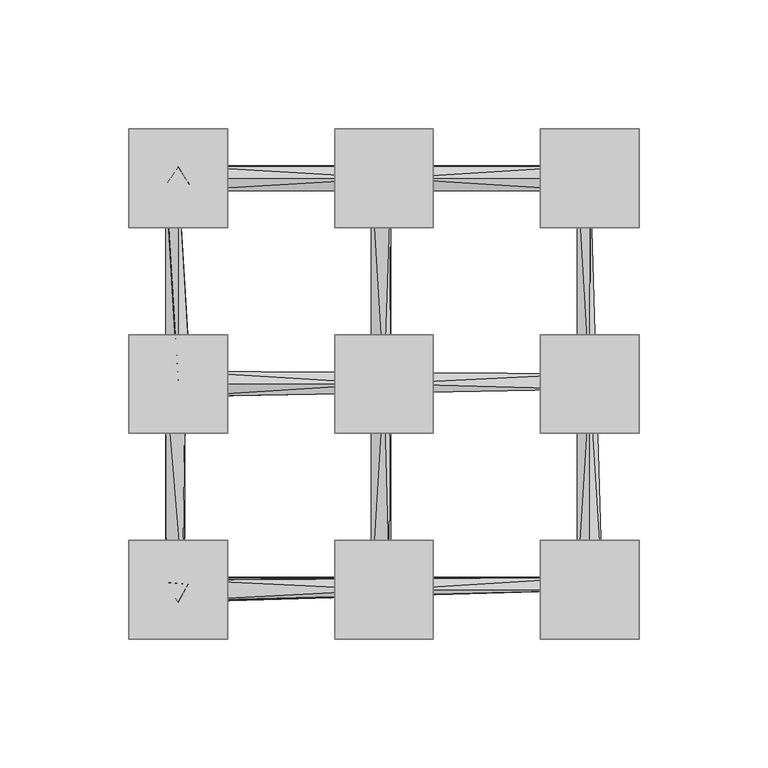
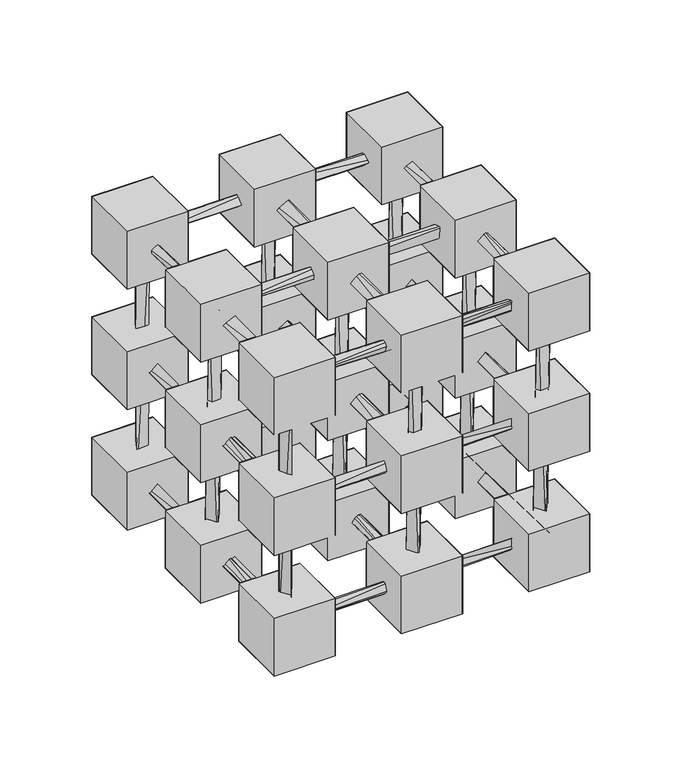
"""IFC4 building model written with IfcOpenShell, lengths in millimetres: geographic element geometry, Enscape AssetDefinition - Decorative Goods 034 Molecular Model : Enscape AssetDefinition - Decorative Goods 034 Molecular Model."""

from ifc_helpers import new_model, si_unit, origin, place, context, project, spatial, triangles, source, transform, mapped, element, save


def geographic_element_730c862c(model_context):
    return source(origin(), model_context, "Body", "Tessellation", [
        triangles([(-99.2090062, -60.7910023, 38.289001), (-99.2090062, -99.2090062, -0.129), (-99.2090062, -99.2090062, 38.289001), (-60.7910023, -99.2090062, -0.129), (-99.2090062, -60.7910023, -0.129), (-60.7910023, -60.7910023, -0.129), (-60.7910023, -99.2090062, 38.289001), (-60.7910023, -60.7910023, 38.289001), (-99.2090062, 60.7910023, 159.8710011), (-60.7910023, 60.7910023, 159.8710011), (-99.2090062, 60.7910023, 198.2890049), (-60.7910023, 60.7910023, 198.2890049), (-99.2090062, 99.2090062, 159.8710011), (-99.2090062, 99.2090062, 198.2890049), (-60.7910023, 99.2090062, 159.8710011), (-60.7910023, 99.2090062, 198.2890049), (-19.2089997, 99.2090062, 198.2890049), (19.2089997, 60.7910023, 159.8710011), (-19.2089997, 60.7910023, 159.8710011), (19.2089997, 60.7910023, 198.2890049), (-19.2089997, 60.7910023, 198.2890049), (-19.2089997, 99.2090062, 159.8710011), (19.2089997, 99.2090062, 198.2890049), (19.2089997, 99.2090062, 159.8710011), (60.7910023, 60.7910023, 198.2890049), (60.7910023, 99.2090062, 198.2890049), (60.7910023, 99.2090062, 159.8710011), (99.2090062, 60.7910023, 159.8710011), (60.7910023, 60.7910023, 159.8710011), (99.2090062, 99.2090062, 198.2890049), (99.2090062, 60.7910023, 198.2890049), (99.2090062, 99.2090062, 159.8710011), (-99.2090062, -19.2089997, 198.2890049), (-99.2090062, 19.2089997, 198.2890049), (-99.2090062, 19.2089997, 159.8710011), (-99.2090062, -19.2089997, 159.8710011), (-60.7910023, -19.2089997, 159.8710011), (-60.7910023, -19.2089997, 198.2890049), (-60.7910023, 19.2089997, 159.8710011), (-60.7910023, 19.2089997, 198.2890049), (19.2089997, -19.2089997, 159.8710011), (-19.2089997, -19.2089997, 159.8710011), (-19.2089997, -19.2089997, 198.2890049), (-19.2089997, 19.2089997, 198.2890049), (-19.2089997, 19.2089997, 159.8710011), (19.2089997, 19.2089997, 198.2890049), (19.2089997, -19.2089997, 198.2890049), (19.2089997, 19.2089997, 159.8710011), (60.7910023, -19.2089997, 159.8710011), (60.7910023, -19.2089997, 198.2890049), (99.2090062, -19.2089997, 159.8710011), (60.7910023, 19.2089997, 198.2890049), (99.2090062, 19.2089997, 198.2890049), (60.7910023, 19.2089997, 159.8710011), (99.2090062, 19.2089997, 159.8710011), (99.2090062, -19.2089997, 198.2890049), (-99.2090062, -99.2090062, 159.8710011), (-99.2090062, -99.2090062, 198.2890049), (-99.2090062, -60.7910023, 198.2890049), (-99.2090062, -60.7910023, 159.8710011), (-60.7910023, -60.7910023, 198.2890049), (-60.7910023, -60.7910023, 159.8710011), (-60.7910023, -99.2090062, 159.8710011), (-60.7910023, -99.2090062, 198.2890049), (-19.2089997, -99.2090062, 198.2890049), (-19.2089997, -60.7910023, 198.2890049), (-19.2089997, -99.2090062, 159.8710011), (19.2089997, -99.2090062, 159.8710011), (19.2089997, -99.2090062, 198.2890049), (-19.2089997, -60.7910023, 159.8710011), (19.2089997, -60.7910023, 198.2890049), (19.2089997, -60.7910023, 159.8710011), (60.7910023, -99.2090062, 159.8710011), (99.2090062, -99.2090062, 198.2890049), (60.7910023, -60.7910023, 198.2890049), (99.2090062, -60.7910023, 198.2890049), (60.7910023, -99.2090062, 198.2890049), (60.7910023, -60.7910023, 159.8710011), (99.2090062, -60.7910023, 159.8710011), (99.2090062, -99.2090062, 159.8710011), (-99.2090062, 60.7910023, 79.8709969), (-99.2090062, 99.2090062, 118.2890007), (-99.2090062, 60.7910023, 118.2890007), (-60.7910023, 99.2090062, 118.2890007), (-99.2090062, 99.2090062, 79.8709969), (-60.7910023, 60.7910023, 79.8709969), (-60.7910023, 99.2090062, 79.8709969), (-60.7910023, 60.7910023, 118.2890007), (-19.2089997, 60.7910023, 118.2890007), (-19.2089997, 60.7910023, 79.8709969), (19.2089997, 60.7910023, 118.2890007), (-19.2089997, 99.2090062, 118.2890007), (19.2089997, 99.2090062, 118.2890007), (-19.2089997, 99.2090062, 79.8709969), (19.2089997, 99.2090062, 79.8709969), (19.2089997, 60.7910023, 79.8709969), (60.7910023, 99.2090062, 118.2890007), (60.7910023, 99.2090062, 79.8709969), (60.7910023, 60.7910023, 79.8709969), (99.2090062, 60.7910023, 79.8709969), (99.2090062, 60.7910023, 118.2890007), (60.7910023, 60.7910023, 118.2890007), (99.2090062, 99.2090062, 79.8709969), (99.2090062, 99.2090062, 118.2890007), (-99.2090062, 19.2089997, 79.8709969), (-60.7910023, -19.2089997, 79.8709969), (-99.2090062, -19.2089997, 118.2890007), (-99.2090062, -19.2089997, 79.8709969), (-60.7910023, 19.2089997, 118.2890007), (-99.2090062, 19.2089997, 118.2890007), (-60.7910023, -19.2089997, 118.2890007), (-60.7910023, 19.2089997, 79.8709969), (-19.2089997, 19.2089997, 118.2890007), (-19.2089997, 19.2089997, 79.8709969), (19.2089997, -19.2089997, 79.8709969), (-19.2089997, -19.2089997, 79.8709969), (19.2089997, -19.2089997, 118.2890007), (19.2089997, 19.2089997, 118.2890007), (-19.2089997, -19.2089997, 118.2890007), (19.2089997, 19.2089997, 79.8709969), (60.7910023, 19.2089997, 79.8709969), (60.7910023, -19.2089997, 79.8709969), (99.2090062, -19.2089997, 79.8709969), (99.2090062, -19.2089997, 118.2890007), (60.7910023, -19.2089997, 118.2890007), (60.7910023, 19.2089997, 118.2890007), (99.2090062, 19.2089997, 118.2890007), (99.2090062, 19.2089997, 79.8709969), (-99.2090062, -99.2090062, 79.8709969), (-60.7910023, -99.2090062, 79.8709969), (-99.2090062, -99.2090062, 118.2890007), (-60.7910023, -99.2090062, 118.2890007), (-99.2090062, -60.7910023, 79.8709969), (-99.2090062, -60.7910023, 118.2890007), (-60.7910023, -60.7910023, 79.8709969), (-60.7910023, -60.7910023, 118.2890007), (-19.2089997, -99.2090062, 79.8709969), (-19.2089997, -60.7910023, 118.2890007), (-19.2089997, -60.7910023, 79.8709969), (-19.2089997, -99.2090062, 118.2890007), (19.2089997, -60.7910023, 79.8709969), (19.2089997, -99.2090062, 79.8709969), (19.2089997, -60.7910023, 118.2890007), (19.2089997, -99.2090062, 118.2890007), (60.7910023, -99.2090062, 79.8709969), (99.2090062, -99.2090062, 79.8709969), (60.7910023, -99.2090062, 118.2890007), (60.7910023, -60.7910023, 118.2890007), (99.2090062, -60.7910023, 118.2890007), (60.7910023, -60.7910023, 79.8709969), (99.2090062, -60.7910023, 79.8709969), (99.2090062, -99.2090062, 118.2890007), (-99.2090062, 60.7910023, -0.129), (-99.2090062, 99.2090062, 38.289001), (-60.7910023, 60.7910023, -0.129), (-99.2090062, 60.7910023, 38.289001), (-99.2090062, 99.2090062, -0.129), (-60.7910023, 99.2090062, -0.129), (-60.7910023, 99.2090062, 38.289001), (-60.7910023, 60.7910023, 38.289001), (-19.2089997, 60.7910023, 38.289001), (-19.2089997, 60.7910023, -0.129), (-19.2089997, 99.2090062, 38.289001), (-19.2089997, 99.2090062, -0.129), (19.2089997, 99.2090062, -0.129), (19.2089997, 99.2090062, 38.289001), (19.2089997, 60.7910023, -0.129), (19.2089997, 60.7910023, 38.289001), (60.7910023, 60.7910023, -0.129), (60.7910023, 99.2090062, 38.289001), (99.2090062, 60.7910023, -0.129), (60.7910023, 60.7910023, 38.289001), (60.7910023, 99.2090062, -0.129), (99.2090062, 99.2090062, 38.289001), (99.2090062, 99.2090062, -0.129), (99.2090062, 60.7910023, 38.289001), (-99.2090062, -19.2089997, -0.129), (-99.2090062, 19.2089997, 38.289001), (-99.2090062, 19.2089997, -0.129), (-60.7910023, -19.2089997, -0.129), (-99.2090062, -19.2089997, 38.289001), (-60.7910023, 19.2089997, 38.289001), (-60.7910023, 19.2089997, -0.129), (-60.7910023, -19.2089997, 38.289001), (-19.2089997, -19.2089997, -0.129), (-19.2089997, -19.2089997, 38.289001), (-19.2089997, 19.2089997, 38.289001), (19.2089997, -19.2089997, -0.129), (-19.2089997, 19.2089997, -0.129), (19.2089997, 19.2089997, 38.289001), (19.2089997, 19.2089997, -0.129), (19.2089997, -19.2089997, 38.289001), (60.7910023, 19.2089997, -0.129), (60.7910023, -19.2089997, -0.129), (99.2090062, -19.2089997, 38.289001), (60.7910023, 19.2089997, 38.289001), (60.7910023, -19.2089997, 38.289001), (99.2090062, 19.2089997, 38.289001), (99.2090062, -19.2089997, -0.129), (99.2090062, 19.2089997, -0.129), (-19.2089997, -99.2090062, -0.129), (19.2089997, -99.2090062, -0.129), (-19.2089997, -99.2090062, 38.289001), (-19.2089997, -60.7910023, -0.129), (-19.2089997, -60.7910023, 38.289001), (19.2089997, -60.7910023, -0.129), (19.2089997, -60.7910023, 38.289001), (19.2089997, -99.2090062, 38.289001), (60.7910023, -99.2090062, -0.129), (60.7910023, -60.7910023, 38.289001), (99.2090062, -99.2090062, -0.129), (60.7910023, -99.2090062, 38.289001), (99.2090062, -99.2090062, 38.289001), (60.7910023, -60.7910023, -0.129), (99.2090062, -60.7910023, -0.129), (99.2090062, -60.7910023, 38.289001), (84.3950031, -78.2280012, 18.9999996), (80.0999981, -75.5459974, 179.0000115), (84.3950031, -81.7719982, 179.0000115), (80.0999981, -84.454002, 18.9999996), (75.8809969, -82.436002, 179.0000115), (75.8809969, -77.5639974, 18.9999996), (79.9989959, 3.8970002, 96.8500023), (-79.9999952, 3.8970002, 101.3500001), (-79.9999952, -0.866, 94.6000033), (79.9999952, -2.051, 94.8369983), (0.0, 0.0, 94.6000033), (-4.872, 79.9989959, 99.1000012), (-4.872, -79.9999952, 99.1000012), (79.9999952, -79.9999952, 103.599999), (79.9999952, -80.0950021, 96.8500023), (-79.9999952, -79.9999952, 103.599999), (2.6879999, -79.9999952, 103.289998), (2.051, 79.9999952, 103.3630041), (84.8719997, -79.9999952, 99.1000012), (75.1279951, -79.9999952, 99.1000012), (75.1279951, 79.9989959, 99.1000012), (80.0950021, 79.9999952, 96.8500023), (79.9999952, -0.866, 103.599999), (79.9999952, 79.9999952, 103.599999), (79.9989959, 84.8719997, 99.1000012), (-79.9999952, 75.1279951, 99.1000012), (2.6879999, 79.9999952, 94.9100044), (79.9999952, 75.1279951, 99.1000012), (-79.9050064, 79.9999952, 96.8500023), (-79.9999952, 84.8719997, 99.1000012), (-79.9999952, -2.051, 103.3630041), (-79.9999952, 79.9999952, 103.599999), (-84.8719997, 79.9989959, 99.1000012), (-84.8719997, -80.0009944, 99.1000012), (-79.9050064, -79.9999952, 96.8500023), (0.0, 0.0, 103.599999), (-79.9999952, -84.8719997, 99.1000012), (-80.0009944, -75.1279951, 99.1000012), (79.9989959, -75.1279951, 99.1000012), (2.051, -79.9999952, 94.8369983), (-3.898, 79.9999952, 16.8500003), (0.0, 0.0, 14.6000002), (-3.898, -79.9999952, 21.3500004), (-79.9999952, -0.866, 14.6000002), (2.051, 79.9999952, 14.8369998), (79.9999952, -0.866, 23.6000016), (79.9989959, 3.8970002, 16.8500003), (-79.9999952, 3.8970002, 21.3500004), (0.0, 0.0, 23.6000016), (-79.9050064, 79.9999952, 16.8500003), (-84.8719997, 79.9989959, 19.0999992), (-84.8719997, -80.0009944, 19.0999992), (-79.9999952, -2.051, 23.3629998), (-79.9999952, 84.8719997, 19.0999992), (-79.9999952, 79.9999952, 23.6000016), (-79.9999952, 75.1279951, 19.0999992), (0.866, 79.9999952, 23.6000016), (79.9999952, 75.1279951, 19.0999992), (79.9989959, 84.8719997, 19.0999992), (79.9999952, -2.051, 14.8369998), (80.0950021, 79.9999952, 21.3500004), (84.8719997, -79.9999952, 19.0999992), (75.1279951, 79.9989959, 19.0999992), (79.9999952, 79.9999952, 14.6000002), (75.1279951, -80.0009944, 19.0999992), (79.9999952, -80.0950021, 16.8500003), (0.866, -79.9999952, 14.6000002), (79.9999952, -79.9999952, 23.6000016), (79.9989959, -75.1279951, 19.0999992), (-79.9999952, -84.8719997, 19.0999992), (-80.0009944, -75.1279951, 19.0999992), (2.051, -79.9999952, 23.3629998), (-79.9999952, -79.9999952, 14.6000002), (-79.9050064, -79.9999952, 21.3500004), (-79.9999952, 75.1279951, 179.1000054), (79.9999952, 75.1279951, 179.1000054), (79.9999952, 79.9999952, 174.6000076), (2.6879999, 79.9999952, 183.2900113), (80.0950021, 79.9999952, 181.3499953), (2.051, 79.9999952, 174.8369844), (75.1279951, 79.9989959, 179.1000054), (75.1279951, -79.9999952, 179.1000054), (79.9999952, -79.9999952, 174.6000076), (79.9999952, -0.866, 174.6000076), (84.8719997, -79.9999952, 179.1000054), (79.9999952, -2.051, 183.3630083), (79.9989959, -75.1279951, 179.1000054), (-79.9999952, -84.3299998, 180.6000047), (79.9999952, -80.0950021, 181.3499953), (-79.9999952, -76.1030037, 181.3499953), (2.051, -79.9999952, 183.3630083), (-79.9999952, -77.7729963, 175.2430098), (2.6879999, -79.9999952, 174.9099996), (-79.9210029, 79.9999952, 182.3080037), (0.0, 0.0, 183.5999851), (-79.9999952, 84.8719997, 179.1000054), (79.9989959, 84.8719997, 179.1000054), (-4.872, 79.9989959, 179.1000054), (-4.872, -80.0009944, 179.1000054), (0.0, 0.0, 174.6000076), (-84.8719997, 79.9989959, 179.1000054), (-75.1279951, 0.0, 179.1000054), (-80.0789965, 0.0, 175.891989), (-79.9999952, 79.9999952, 174.6000076), (-79.9999952, 0.0, 183.5999851), (-80.0009944, 4.872, 179.1000054), (79.9989959, 3.8970002, 181.3499953), (-79.9999952, -4.872, 179.1000054), (0.1, 75.5459974, 18.9999996), (-4.1189999, 77.5639974, 179.0000115), (-4.1189999, 82.436002, 18.9999996), (0.1, 84.454002, 179.0000115), (4.3950002, 81.7719982, 18.9999996), (4.3950002, 78.2280012, 179.0000115), (-84.8719997, -0.001, 99.1000012), (-78.2280012, -79.9999952, 94.8050054), (-84.454002, -79.9999952, 99.1000012), (-77.5639974, -79.9999952, 103.3189933), (-77.1660021, 0.0, 95.4179948), (-77.7729963, 0.0, 102.957006), (-77.5639974, -79.9999952, 23.3190004), (-84.454002, -80.0009944, 19.0999992), (-77.1660021, 0.0, 15.4179997), (-77.7729963, 0.0, 22.9570017), (-78.2280012, -79.9999952, 14.805), (-84.8719997, -0.001, 19.0999992), (4.3950002, -78.2280012, 18.9999996), (0.1, -75.5459974, 179.0000115), (0.1, -84.454002, 18.9999996), (4.3950002, -81.7719982, 179.0000115), (-4.1189999, -77.5639974, 18.9999996), (-4.1189999, -82.436002, 179.0000115), (4.3950002, 1.7720001, 18.9999996), (0.1, 4.454, 179.0000115), (4.3950002, -1.7720001, 179.0000115), (0.1, -4.454, 18.9999996), (-4.1189999, -2.436, 179.0000115), (-4.1189999, 2.436, 18.9999996), (-84.1190025, 2.436, 18.9999996), (-79.8999922, 4.454, 179.0000115), (-84.1190025, -2.436, 179.0000115), (-75.6049963, 1.7720001, 18.9999996), (-79.8999922, -4.454, 18.9999996), (-75.6049963, -1.7720001, 179.0000115), (80.0999981, 4.454, 179.0000115), (75.8040031, 1.7720001, 18.9999996), (84.3180001, 2.436, 18.9999996), (84.3950031, -1.7720001, 179.0000115), (80.0999981, -4.454, 18.9999996), (75.8809969, -2.436, 179.0000115), (-77.5639974, -79.9999952, 174.8810042), (-77.7729963, 0.0, 175.2430098), (-84.8719997, -0.001, 179.1000054), (-78.2280012, -79.9999952, 183.3950013), (-77.1660021, 0.0, 182.7819936), (-84.454002, -79.9999952, 179.1000054), (-76.043001, 77.7729963, 18.9999996), (-84.1960054, 78.2290004, 179.0000115), (-83.5819985, 77.1660021, 18.9999996), (-79.8999922, 84.8719997, 18.9999996), (-75.6819993, 77.5639974, 179.0000115), (-79.8999922, 84.454002, 179.0000115), (-84.1960054, -78.2290004, 18.9999996), (-79.8999922, -84.454002, 18.9999996), (-75.6819993, -77.5639974, 18.9999996), (-83.5819985, -77.1660021, 179.0000115), (-76.043001, -77.7729963, 179.0000115), (-79.8999922, -84.8719997, 178.9990123), (75.8809969, 77.5639974, 179.0000115), (75.8809969, 82.436002, 18.9999996), (84.3950031, 81.7719982, 18.9999996), (80.0999981, 84.454002, 179.0000115), (84.3950031, 78.2280012, 179.0000115), (80.0999981, 75.5459974, 18.9999996)], [[390, 389, 385], [387, 389, 390], [387, 388, 389], [386, 390, 385], [385, 388, 386], [386, 388, 387], [382, 383, 381], [382, 381, 379], [381, 383, 384], [384, 382, 379], [381, 384, 380], [384, 379, 380], [377, 374, 375], [377, 375, 373], [374, 378, 376], [376, 378, 377], [374, 376, 375], [376, 377, 373], [370, 369, 372], [370, 371, 369], [367, 372, 369], [367, 368, 371], [367, 369, 368], [367, 371, 370], [366, 362, 365], [365, 364, 366], [363, 364, 365], [363, 361, 364], [362, 366, 361], [361, 363, 362], [359, 360, 357], [358, 360, 359], [358, 356, 360], [355, 359, 357], [357, 356, 355], [355, 356, 358], [353, 350, 354], [353, 354, 352], [352, 351, 353], [349, 350, 351], [350, 349, 354], [349, 351, 352], [347, 348, 344], [348, 347, 345], [345, 346, 348], [343, 344, 346], [347, 344, 343], [343, 346, 345], [341, 338, 342], [341, 342, 339], [337, 341, 339], [337, 340, 342], [337, 339, 340], [337, 342, 338], [334, 335, 336], [334, 336, 331], [334, 331, 333], [334, 332, 335], [332, 333, 331], [332, 331, 335], [329, 330, 325], [329, 328, 330], [327, 328, 329], [325, 330, 326], [327, 326, 328], [326, 327, 325], [311, 302, 323], [324, 302, 311], [324, 300, 302], [323, 322, 311], [323, 300, 322], [321, 310, 317], [322, 321, 311], [311, 321, 324], [318, 310, 321], [318, 320, 310], [318, 319, 320], [321, 317, 319], [319, 317, 320], [300, 324, 316], [322, 300, 316], [324, 319, 316], [316, 319, 322], [314, 315, 311], [315, 314, 316], [314, 296, 316], [312, 313, 296], [296, 320, 312], [313, 312, 294], [311, 294, 314], [312, 310, 294], [309, 296, 294], [296, 309, 316], [316, 309, 315], [304, 308, 309], [315, 307, 311], [307, 294, 311], [306, 304, 307], [309, 294, 307], [308, 303, 309], [303, 308, 306], [303, 306, 307], [304, 305, 307], [305, 303, 307], [305, 304, 309], [305, 301, 302], [299, 300, 301], [303, 299, 309], [309, 299, 305], [298, 305, 302], [299, 298, 300], [297, 298, 302], [298, 297, 300], [313, 293, 296], [297, 293, 300], [300, 293, 295], [301, 295, 302], [294, 295, 313], [302, 295, 297], [301, 300, 295], [293, 292, 296], [292, 295, 294], [291, 292, 294], [294, 310, 291], [292, 291, 296], [291, 320, 296], [267, 266, 260], [268, 267, 260], [260, 289, 268], [289, 260, 290], [290, 260, 266], [290, 288, 287], [288, 290, 286], [283, 289, 287], [286, 289, 283], [287, 285, 283], [287, 288, 285], [288, 284, 285], [282, 286, 283], [282, 284, 288], [286, 282, 288], [285, 282, 283], [282, 281, 276], [278, 282, 276], [281, 284, 262], [262, 284, 278], [262, 260, 276], [281, 279, 276], [279, 281, 262], [279, 280, 276], [278, 277, 262], [277, 278, 276], [276, 280, 277], [262, 277, 279], [273, 277, 275], [283, 273, 288], [274, 277, 273], [272, 274, 273], [274, 272, 261], [280, 274, 261], [275, 280, 261], [283, 261, 273], [272, 266, 261], [275, 270, 273], [270, 275, 261], [261, 266, 270], [271, 272, 273], [270, 271, 273], [262, 269, 260], [267, 268, 269], [269, 271, 267], [290, 266, 269], [268, 290, 269], [266, 271, 269], [288, 273, 265], [259, 288, 265], [273, 259, 265], [269, 262, 265], [264, 269, 265], [262, 264, 265], [263, 260, 264], [263, 264, 262], [261, 283, 258], [260, 263, 258], [260, 258, 276], [263, 276, 258], [259, 273, 257], [283, 257, 258], [259, 257, 283], [257, 261, 258], [231, 256, 255], [255, 256, 254], [231, 253, 256], [256, 251, 254], [253, 251, 256], [239, 247, 225], [232, 251, 247], [247, 239, 252], [251, 250, 225], [250, 232, 247], [249, 250, 247], [250, 249, 225], [245, 251, 225], [251, 245, 247], [249, 245, 225], [247, 248, 249], [245, 248, 247], [246, 248, 234], [234, 248, 242], [242, 244, 234], [245, 246, 243], [244, 242, 243], [242, 245, 243], [246, 241, 243], [241, 246, 234], [234, 240, 241], [244, 240, 234], [238, 244, 243], [241, 238, 243], [238, 240, 239], [235, 238, 239], [238, 235, 226], [239, 225, 226], [235, 231, 226], [237, 238, 226], [239, 240, 237], [236, 237, 226], [226, 231, 236], [237, 236, 239], [239, 230, 235], [236, 230, 239], [243, 234, 233], [233, 234, 252], [233, 230, 255], [232, 233, 254], [253, 231, 233], [233, 232, 253], [243, 233, 256], [254, 233, 255], [231, 230, 233], [229, 233, 252], [228, 229, 252], [252, 234, 228], [226, 225, 227], [243, 256, 227], [229, 228, 227], [227, 256, 229], [228, 243, 227], [223, 226, 227], [225, 223, 227], [223, 225, 224], [239, 224, 252], [223, 224, 239], [224, 247, 252], [221, 218, 222], [222, 220, 221], [220, 219, 221], [217, 218, 219], [222, 218, 217], [217, 219, 220], [215, 216, 213], [215, 213, 211], [214, 216, 215], [214, 215, 211], [214, 210, 216], [216, 212, 213], [216, 210, 212], [211, 213, 212], [211, 212, 209], [214, 211, 209], [209, 210, 214], [209, 212, 210], [206, 207, 208], [206, 208, 202], [204, 207, 206], [204, 206, 202], [204, 205, 207], [207, 203, 208], [207, 205, 203], [202, 208, 203], [202, 203, 201], [204, 202, 201], [201, 205, 204], [201, 203, 205], [200, 198, 195], [200, 195, 199], [193, 198, 200], [193, 200, 199], [193, 196, 198], [198, 197, 195], [198, 196, 197], [199, 195, 197], [199, 197, 194], [193, 199, 194], [194, 196, 193], [194, 197, 196], [191, 190, 192], [191, 192, 188], [189, 190, 191], [189, 191, 188], [189, 187, 190], [190, 186, 192], [190, 187, 186], [188, 192, 186], [188, 186, 185], [189, 188, 185], [185, 187, 189], [185, 186, 187], [183, 182, 184], [183, 184, 180], [179, 182, 183], [179, 183, 180], [179, 178, 182], [182, 181, 184], [182, 178, 181], [180, 184, 181], [180, 181, 177], [179, 180, 177], [177, 178, 179], [177, 181, 178], [175, 174, 176], [175, 176, 171], [173, 174, 175], [173, 175, 171], [173, 170, 174], [174, 172, 176], [174, 170, 172], [171, 176, 172], [171, 172, 169], [173, 171, 169], [169, 170, 173], [169, 172, 170], [165, 166, 168], [165, 168, 167], [164, 166, 165], [164, 165, 167], [164, 163, 166], [166, 161, 168], [166, 163, 161], [167, 168, 161], [167, 161, 162], [164, 167, 162], [162, 163, 164], [162, 161, 163], [158, 159, 160], [158, 160, 155], [157, 159, 158], [157, 158, 155], [157, 154, 159], [159, 156, 160], [159, 154, 156], [155, 160, 156], [155, 156, 153], [157, 155, 153], [153, 154, 157], [153, 156, 154], [151, 149, 152], [151, 152, 146], [150, 149, 151], [150, 151, 146], [150, 148, 149], [149, 147, 152], [149, 148, 147], [146, 152, 147], [146, 147, 145], [150, 146, 145], [145, 148, 150], [145, 147, 148], [141, 143, 144], [141, 144, 142], [139, 143, 141], [139, 141, 142], [139, 138, 143], [143, 140, 144], [143, 138, 140], [142, 144, 140], [142, 140, 137], [139, 142, 137], [137, 138, 139], [137, 140, 138], [135, 136, 132], [135, 132, 130], [133, 136, 135], [133, 135, 130], [133, 134, 136], [136, 131, 132], [136, 134, 131], [130, 132, 131], [130, 131, 129], [133, 130, 129], [129, 134, 133], [129, 131, 134], [128, 127, 124], [128, 124, 123], [121, 127, 128], [121, 128, 123], [121, 126, 127], [127, 125, 124], [127, 126, 125], [123, 124, 125], [123, 125, 122], [121, 123, 122], [122, 126, 121], [122, 125, 126], [120, 118, 117], [120, 117, 115], [114, 118, 120], [114, 120, 115], [114, 113, 118], [118, 119, 117], [118, 113, 119], [115, 117, 119], [115, 119, 116], [114, 115, 116], [116, 113, 114], [116, 119, 113], [112, 109, 111], [112, 111, 106], [105, 109, 112], [105, 112, 106], [105, 110, 109], [109, 107, 111], [109, 110, 107], [106, 111, 107], [106, 107, 108], [105, 106, 108], [108, 110, 105], [108, 107, 110], [103, 104, 101], [103, 101, 100], [98, 104, 103], [98, 103, 100], [98, 97, 104], [104, 102, 101], [104, 97, 102], [100, 101, 102], [100, 102, 99], [98, 100, 99], [99, 97, 98], [99, 102, 97], [95, 93, 91], [95, 91, 96], [94, 93, 95], [94, 95, 96], [94, 92, 93], [93, 89, 91], [93, 92, 89], [96, 91, 89], [96, 89, 90], [94, 96, 90], [90, 92, 94], [90, 89, 92], [87, 84, 88], [87, 88, 86], [85, 84, 87], [85, 87, 86], [85, 82, 84], [84, 83, 88], [84, 82, 83], [86, 88, 83], [86, 83, 81], [85, 86, 81], [81, 82, 85], [81, 83, 82], [79, 76, 74], [79, 74, 80], [78, 76, 79], [78, 79, 80], [78, 75, 76], [76, 77, 74], [76, 75, 77], [80, 74, 77], [80, 77, 73], [78, 80, 73], [73, 75, 78], [73, 77, 75], [72, 71, 69], [72, 69, 68], [70, 71, 72], [70, 72, 68], [70, 66, 71], [71, 65, 69], [71, 66, 65], [68, 69, 65], [68, 65, 67], [70, 68, 67], [67, 66, 70], [67, 65, 66], [62, 61, 64], [62, 64, 63], [60, 61, 62], [60, 62, 63], [60, 59, 61], [61, 58, 64], [61, 59, 58], [63, 64, 58], [63, 58, 57], [60, 63, 57], [57, 59, 60], [57, 58, 59], [55, 53, 56], [55, 56, 51], [54, 53, 55], [54, 55, 51], [54, 52, 53], [53, 50, 56], [53, 52, 50], [51, 56, 50], [51, 50, 49], [54, 51, 49], [49, 52, 54], [49, 50, 52], [48, 46, 47], [48, 47, 41], [45, 46, 48], [45, 48, 41], [45, 44, 46], [46, 43, 47], [46, 44, 43], [41, 47, 43], [41, 43, 42], [45, 41, 42], [42, 44, 45], [42, 43, 44], [39, 40, 38], [39, 38, 37], [35, 40, 39], [35, 39, 37], [35, 34, 40], [40, 33, 38], [40, 34, 33], [37, 38, 33], [37, 33, 36], [35, 37, 36], [36, 34, 35], [36, 33, 34], [32, 30, 31], [32, 31, 28], [27, 30, 32], [27, 32, 28], [27, 26, 30], [30, 25, 31], [30, 26, 25], [28, 31, 25], [28, 25, 29], [27, 28, 29], [29, 26, 27], [29, 25, 26], [24, 23, 20], [24, 20, 18], [22, 23, 24], [22, 24, 18], [22, 17, 23], [23, 21, 20], [23, 17, 21], [18, 20, 21], [18, 21, 19], [22, 18, 19], [19, 17, 22], [19, 21, 17], [15, 16, 12], [15, 12, 10], [13, 16, 15], [13, 15, 10], [13, 14, 16], [16, 11, 12], [16, 14, 11], [10, 12, 11], [10, 11, 9], [13, 10, 9], [9, 14, 13], [9, 11, 14], [6, 8, 7], [6, 7, 4], [5, 8, 6], [5, 6, 4], [5, 1, 8], [8, 3, 7], [8, 1, 3], [4, 7, 3], [4, 3, 2], [5, 4, 2], [2, 1, 5], [2, 3, 1]], closed=False),
    ])


if __name__ == "__main__":
    model = new_model("IFC4")
    model_context = context("Model", 3, world=origin())
    ifc_project = project(units=[si_unit("LENGTHUNIT", "METRE", prefix="MILLI")], contexts=[model_context])
    site = spatial("IfcSite", under=ifc_project)
    building = spatial("IfcBuilding", under=site)
    placement = place(None, origin())
    geographic_element_shape = geographic_element_730c862c(model_context)
    element("IfcGeographicElement", 1, ObjectType="Enscape AssetDefinition - Decorative Goods 034 Molecular Model : Enscape AssetDefinition - Decorative Goods 034 Molecular Model", at=placement, inside=building, context=model_context, shape_type="MappedRepresentation", body=[
        mapped(geographic_element_shape, transform((0.0, 0.0, 0.0), x_axis=(1.0, 0.0, 0.0), y_axis=(0.0, 1.0, 0.0), z_axis=(0.0, 0.0, 1.0))),
    ])
    save(model, "model.ifc")
